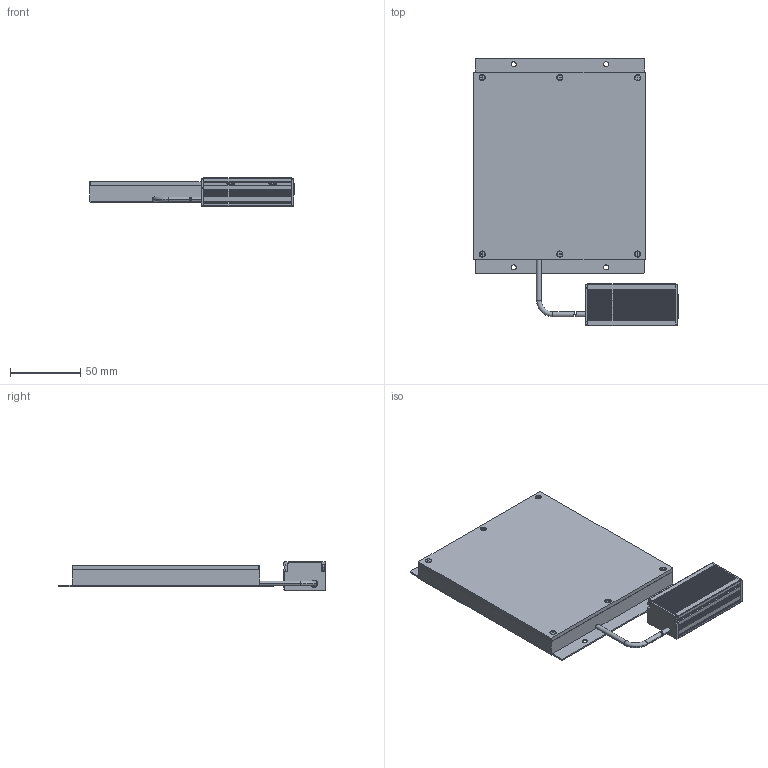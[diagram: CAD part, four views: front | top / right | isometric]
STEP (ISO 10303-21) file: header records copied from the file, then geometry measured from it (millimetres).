
FILE_DESCRIPTION (( 'STEP AP203' ), '1' );
FILE_NAME ('BCBL-120X120x.STEP', '2020-03-25T09:50:27', ( '' ), ( '' ), 'SwSTEP 2.0', 'SolidWorks 2011', '' );
FILE_SCHEMA (( 'CONFIG_CONTROL_DESIGN' ));
Products named in the file (1): BCBL-120X120x
Bounding box: 146.02 x 191.31 x 20 mm (x, y, z)
Surface area: 109115.2 mm2 (no closed solid volume)
Topology: 0 solids, 401 shells, 4978 faces, 11598 edges, 7459 vertices
Faces by surface type: plane 3622, cylinder 699, bspline 579, cone 76, torus 2
Entity records: 149130 total; most frequent: CARTESIAN_POINT 39738, ORIENTED_EDGE 23048, DIRECTION 20457, EDGE_CURVE 11554, LINE 9093, VECTOR 9093, VERTEX_POINT 7457, AXIS2_PLACEMENT_3D 5682
